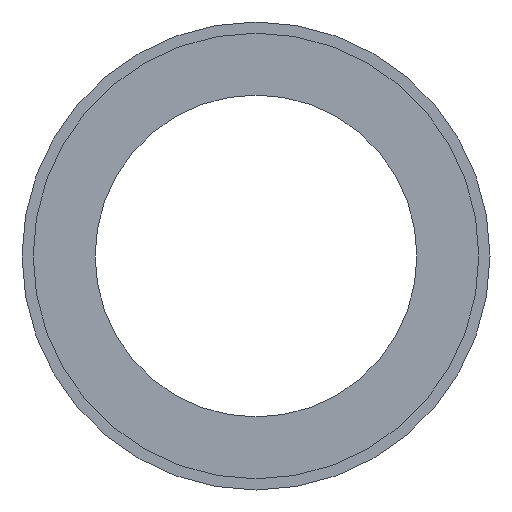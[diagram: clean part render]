
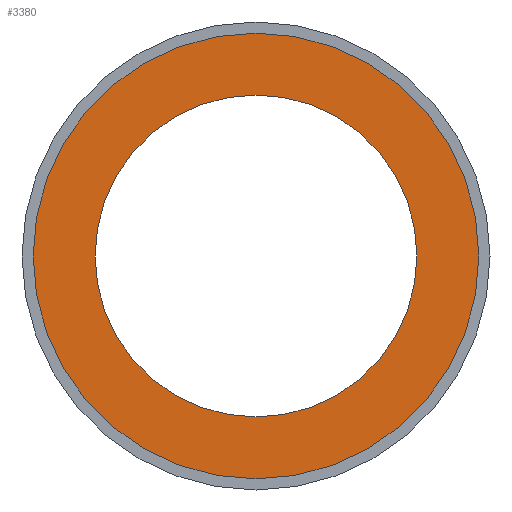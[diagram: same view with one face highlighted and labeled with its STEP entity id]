
A CAD part, front view. The second image highlights one B-rep face of the part: STEP entity #3380.
In plain terms, the highlighted planar face has unit normal (0, -1, 0).
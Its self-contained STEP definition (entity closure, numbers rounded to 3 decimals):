
#196 = CARTESIAN_POINT ( 'NONE',  ( 0., -26., 0. ) ) ;
#491 = ORIENTED_EDGE ( 'NONE', *, *, #1529, .F. ) ;
#507 = ORIENTED_EDGE ( 'NONE', *, *, #970, .T. ) ;
#693 = AXIS2_PLACEMENT_3D ( 'NONE', #759, #776, #2399 ) ;
#759 = CARTESIAN_POINT ( 'NONE',  ( 0., -26., 0. ) ) ;
#776 = DIRECTION ( 'NONE',  ( 0., -1., 0. ) ) ;
#970 = EDGE_CURVE ( 'NONE', #5184, #1786, #1201, .T. ) ;
#1184 = DIRECTION ( 'NONE',  ( 0., 0., 1. ) ) ;
#1201 = CIRCLE ( 'NONE', #693, 90. ) ;
#1319 = EDGE_CURVE ( 'NONE', #1786, #5184, #5105, .T. ) ;
#1493 = AXIS2_PLACEMENT_3D ( 'NONE', #3322, #3273, #1184 ) ;
#1504 = DIRECTION ( 'NONE',  ( 0., -1., 0. ) ) ;
#1516 = ORIENTED_EDGE ( 'NONE', *, *, #4132, .F. ) ;
#1517 = DIRECTION ( 'NONE',  ( 0., 0., -1. ) ) ;
#1529 = EDGE_CURVE ( 'NONE', #4355, #2296, #1720, .T. ) ;
#1568 = AXIS2_PLACEMENT_3D ( 'NONE', #3582, #1504, #4413 ) ;
#1576 = DIRECTION ( 'NONE',  ( 0., -1., 0. ) ) ;
#1720 = CIRCLE ( 'NONE', #2534, 65. ) ;
#1786 = VERTEX_POINT ( 'NONE', #4443 ) ;
#1933 = CARTESIAN_POINT ( 'NONE',  ( 0., -26., 0. ) ) ;
#1948 = EDGE_LOOP ( 'NONE', ( #507, #3265 ) ) ;
#2296 = VERTEX_POINT ( 'NONE', #4248 ) ;
#2353 = AXIS2_PLACEMENT_3D ( 'NONE', #196, #2737, #2722 ) ;
#2399 = DIRECTION ( 'NONE',  ( 0., 0., -1. ) ) ;
#2435 = FACE_OUTER_BOUND ( 'NONE', #1948, .T. ) ;
#2534 = AXIS2_PLACEMENT_3D ( 'NONE', #1933, #1576, #1517 ) ;
#2592 = CARTESIAN_POINT ( 'NONE',  ( 0., -26., 65. ) ) ;
#2722 = DIRECTION ( 'NONE',  ( 0., 0., -1. ) ) ;
#2737 = DIRECTION ( 'NONE',  ( 0., -1., 0. ) ) ;
#2808 = EDGE_LOOP ( 'NONE', ( #1516, #491 ) ) ;
#2861 = PLANE ( 'NONE',  #1493 ) ;
#3265 = ORIENTED_EDGE ( 'NONE', *, *, #1319, .T. ) ;
#3273 = DIRECTION ( 'NONE',  ( 0., 1., 0. ) ) ;
#3322 = CARTESIAN_POINT ( 'NONE',  ( 0., -26., 65. ) ) ;
#3380 = ADVANCED_FACE ( 'NONE', ( #4683, #2435 ), #2861, .F. ) ;
#3582 = CARTESIAN_POINT ( 'NONE',  ( 0., -26., 0. ) ) ;
#4132 = EDGE_CURVE ( 'NONE', #2296, #4355, #4602, .T. ) ;
#4248 = CARTESIAN_POINT ( 'NONE',  ( 0., -26., -65. ) ) ;
#4355 = VERTEX_POINT ( 'NONE', #2592 ) ;
#4413 = DIRECTION ( 'NONE',  ( 0., 0., -1. ) ) ;
#4443 = CARTESIAN_POINT ( 'NONE',  ( 0., -26., 90. ) ) ;
#4602 = CIRCLE ( 'NONE', #1568, 65. ) ;
#4683 = FACE_BOUND ( 'NONE', #2808, .T. ) ;
#4954 = CARTESIAN_POINT ( 'NONE',  ( 0., -26., -90. ) ) ;
#5105 = CIRCLE ( 'NONE', #2353, 90. ) ;
#5184 = VERTEX_POINT ( 'NONE', #4954 ) ;
